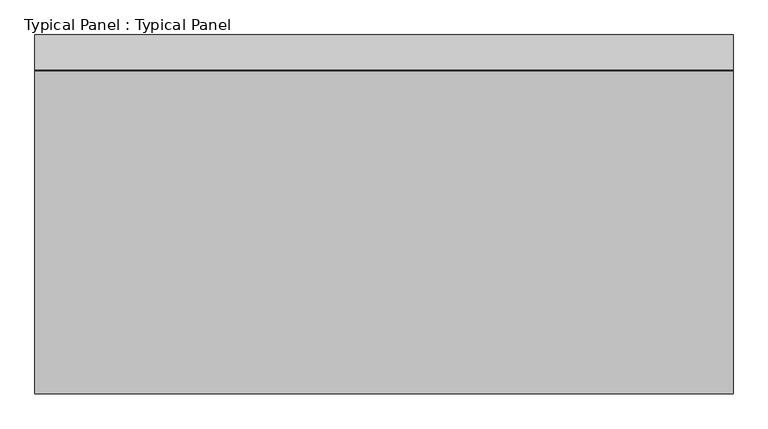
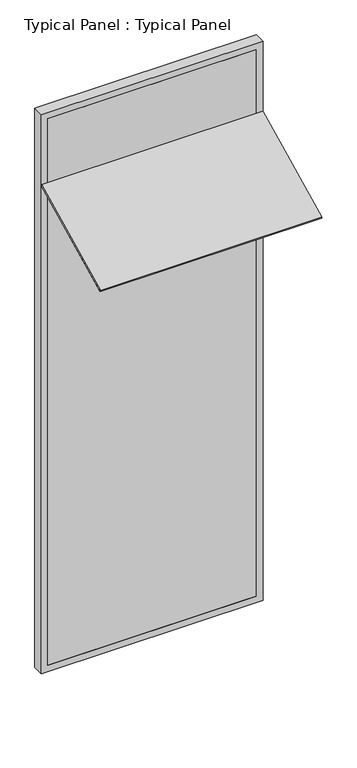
"""IFC4 building model written with IfcOpenShell, lengths in millimetres: plate geometry, Typical Panel : Typical Panel."""

import ifcopenshell
import ifcopenshell.guid

model = None  # the IFC model being written
_history = None  # IfcOwnerHistory: only IFC2X3 demands one
_inside = {}  # id of a spatial element -> (the spatial element, [elements in it])
_under = {}  # id of a project, library or spatial element -> (it, [spatial elements below it])
_declared = {}  # id of a project -> (the project, [libraries it declares])
_typed = {}  # id of a type object -> (the type object, [elements of that type])
_made_of = {}  # id of a material, layer set ... -> (it, [elements and type objects made of it])


def new_model(schema):
    """Start an empty IFC model of exactly this schema.

    Asked for "IFC4X3", IfcOpenShell would pick the latest addendum, in which some entities
    have other attributes; the version numbers below select the first issue.
    IFC2X3 requires an IfcOwnerHistory on every rooted entity: one is made here for all.
    """
    global model, _history
    if schema == "IFC4X3":
        model = ifcopenshell.file(schema_version=(4, 3, 0, 0))
    else:
        model = ifcopenshell.file(schema=schema)
    _inside.clear()
    _under.clear()
    _declared.clear()
    _typed.clear()
    _made_of.clear()
    _history = None
    if model.schema == "IFC2X3":
        org = make("IfcOrganization", Name="unknown")
        user = make(
            "IfcPersonAndOrganization",
            ThePerson=make("IfcPerson", FamilyName="unknown"),
            TheOrganization=org,
        )
        app = make(
            "IfcApplication",
            ApplicationDeveloper=org,
            Version="unknown",
            ApplicationFullName="unknown",
            ApplicationIdentifier="unknown",
        )
        _history = make(
            "IfcOwnerHistory",
            OwningUser=user,
            OwningApplication=app,
            ChangeAction="ADDED",
            CreationDate=0,
        )
    return model


def make(cls, **values):
    """One entity of the class cls with the attributes given. An attribute that is None is left unset."""
    return model.create_entity(
        cls, **{name: value for name, value in values.items() if value is not None}
    )


def rooted(cls, **values):
    """An entity with a GlobalId (a new one), such as an element, a storey or a relation."""
    return make(cls, GlobalId=ifcopenshell.guid.new(), OwnerHistory=_history, **values)


def si_unit(unit_type, name, prefix=None):
    """IfcSIUnit, for example si_unit("LENGTHUNIT", "METRE", prefix="MILLI")."""
    return make("IfcSIUnit", UnitType=unit_type, Prefix=prefix, Name=name)


def assignment(units):
    """IfcUnitAssignment: the units of a project."""
    return None if units is None else make("IfcUnitAssignment", Units=units)


def point(xyz):
    """IfcCartesianPoint."""
    return None if xyz is None else make("IfcCartesianPoint", Coordinates=xyz)


def direction(xyz):
    """IfcDirection."""
    return None if xyz is None else make("IfcDirection", DirectionRatios=xyz)


def frame(location, z_axis=None, x_axis=None):
    """IfcAxis2Placement3D, a coordinate frame: its origin and axes. An axis left out is left unset."""
    return make(
        "IfcAxis2Placement3D",
        Location=point(location),
        Axis=direction(z_axis),
        RefDirection=direction(x_axis),
    )


def origin():
    """The frame at (0, 0, 0) with its axes left unset."""
    return frame((0.0, 0.0, 0.0))


def place(relative_to, where):
    """IfcLocalPlacement: puts the frame where relative to a parent placement (None: the world)."""
    return make(
        "IfcLocalPlacement", PlacementRelTo=relative_to, RelativePlacement=where
    )


def context(
    kind, dimensions, precision=None, world=None, true_north=None, identifier=None
):
    """IfcGeometricRepresentationContext, for example the 3D "Model" context."""
    return make(
        "IfcGeometricRepresentationContext",
        ContextIdentifier=identifier,
        ContextType=kind,
        CoordinateSpaceDimension=dimensions,
        Precision=precision,
        WorldCoordinateSystem=world,
        TrueNorth=true_north,
    )


def project(units=None, contexts=None):
    """IfcProject with its units and contexts."""
    return rooted(
        "IfcProject",
        Name="project",
        RepresentationContexts=contexts,
        UnitsInContext=assignment(units),
    )


def spatial(cls, under=None, at=None, **own):
    """A site, building, storey or space (cls), placed at a placement, below another one or the project."""
    s = rooted(cls, ObjectPlacement=at, **own)
    if under is not None:
        _under.setdefault(under.id(), (under, []))[1].append(s)
    return s


def polyline(points):
    """IfcPolyline through the points."""
    return make("IfcPolyline", Points=[point(p) for p in points])


def outline(outer, holes=None, kind="AREA"):
    """IfcArbitraryClosedProfileDef: a profile drawn as a closed curve; with holes, ...WithVoids."""
    if holes is None:
        return make("IfcArbitraryClosedProfileDef", ProfileType=kind, OuterCurve=outer)
    return make(
        "IfcArbitraryProfileDefWithVoids",
        ProfileType=kind,
        OuterCurve=outer,
        InnerCurves=holes,
    )


def extrude(swept, where, along, depth):
    """IfcExtrudedAreaSolid: the profile swept, set in the frame where, extruded along a direction by depth."""
    return make(
        "IfcExtrudedAreaSolid",
        SweptArea=swept,
        Position=where,
        ExtrudedDirection=direction(along),
        Depth=depth,
    )


def shape(context_of_items, identifier, shape_type, items):
    """IfcShapeRepresentation: the items that make up one representation, for example the "Body"."""
    return make(
        "IfcShapeRepresentation",
        ContextOfItems=context_of_items,
        RepresentationIdentifier=identifier,
        RepresentationType=shape_type,
        Items=items,
    )


def source(mapping_origin, context_of_items, identifier, shape_type, items):
    """IfcRepresentationMap: a shape defined once, which mapped items show again and again."""
    return make(
        "IfcRepresentationMap",
        MappingOrigin=mapping_origin,
        MappedRepresentation=shape(context_of_items, identifier, shape_type, items),
    )


def transform(
    local_origin,
    x_axis=None,
    y_axis=None,
    z_axis=None,
    scale=None,
    scale2=None,
    scale3=None,
    uniform=True,
):
    """IfcCartesianTransformationOperator3D, or its non-uniform kind. x_axis, y_axis, z_axis: its Axis1, 2, 3."""
    if uniform:
        return make(
            "IfcCartesianTransformationOperator3D",
            Axis1=direction(x_axis),
            Axis2=direction(y_axis),
            LocalOrigin=point(local_origin),
            Scale=scale,
            Axis3=direction(z_axis),
        )
    return make(
        "IfcCartesianTransformationOperator3DnonUniform",
        Axis1=direction(x_axis),
        Axis2=direction(y_axis),
        LocalOrigin=point(local_origin),
        Scale=scale,
        Axis3=direction(z_axis),
        Scale2=scale2,
        Scale3=scale3,
    )


def mapped(mapping_source, mapping_target):
    """IfcMappedItem: shows the shape of a source again, moved by a transform."""
    return make(
        "IfcMappedItem", MappingSource=mapping_source, MappingTarget=mapping_target
    )


def made_of(thing, what):
    """Note that an element or type object is made of a material, layer set ...; save() writes the relation."""
    if what is not None:
        _made_of.setdefault(what.id(), (what, []))[1].append(thing)
    return thing


def element(
    cls,
    number,
    at=None,
    inside=None,
    cuts=None,
    type_object=None,
    material=None,
    context=None,
    identifier="Body",
    shape_type=None,
    held_by="IfcProductDefinitionShape",
    body=None,
    shapes=None,
    **own,
):
    """One element of the class cls, such as IfcWall. Its Tag is "e" and its number.

    at: its placement. inside: the storey or other place that contains it. cuts: it is an
    opening in that element (IfcRelVoidsElement). A single representation is given by context,
    identifier, shape_type and body (its items); several are given by shapes. held_by: the class
    of the entity that holds the representations. save() writes the other relations.
    """
    e = rooted(cls, Tag="e%d" % number, ObjectPlacement=at, **own)
    if body is not None:
        shapes = [shape(context, identifier, shape_type, body)]
    if shapes is not None:
        e.Representation = make(held_by, Representations=shapes)
    if inside is not None:
        _inside.setdefault(inside.id(), (inside, []))[1].append(e)
    if cuts is not None:
        rooted(
            "IfcRelVoidsElement", RelatingBuildingElement=cuts, RelatedOpeningElement=e
        )
    if type_object is not None:
        _typed.setdefault(type_object.id(), (type_object, []))[1].append(e)
    return made_of(e, material)


def aggregate(whole, parts):
    """IfcRelAggregates: a whole, such as a stair, and the parts it consists of."""
    return rooted("IfcRelAggregates", RelatingObject=whole, RelatedObjects=parts)


def save(model, path):
    """Write the relations noted so far, then the file.

    IfcRelAggregates (storeys below a building ...), IfcRelContainedInSpatialStructure (elements
    in a storey), IfcRelDefinesByType, IfcRelAssociatesMaterial and IfcRelDeclares: one each for
    every whole, place, type object, material and project.
    """
    for whole, parts in _under.values():
        aggregate(whole, parts)
    for where, things in _inside.values():
        rooted(
            "IfcRelContainedInSpatialStructure",
            RelatedElements=things,
            RelatingStructure=where,
        )
    for kind, things in _typed.values():
        rooted("IfcRelDefinesByType", RelatedObjects=things, RelatingType=kind)
    for what, things in _made_of.values():
        rooted("IfcRelAssociatesMaterial", RelatedObjects=things, RelatingMaterial=what)
    for by, libraries in _declared.values():
        rooted("IfcRelDeclares", RelatingContext=by, RelatedDefinitions=libraries)
    model.write(path)


def typical_panel_typical_panel_c4bb10ae(model_context):
    return source(origin(), model_context, "Body", "SweptSolid", [
        extrude(outline(polyline([(0.0, -770.0), (0.0, 0.0), (1500.0, 0.0), (1500.0, -770.0), (0.0, -770.0)])), frame((750.0, -692.6877042, 3153.4662765), z_axis=(0.0, -0.43837114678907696, 0.8987940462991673), x_axis=(-1.0, 0.0, 0.0)), (0.0, 0.0, 1.0), 10.0),
        extrude(outline(polyline([(0.0, -750.0), (0.0, 750.0), (4000.0, 750.0), (4000.0, -750.0), (0.0, -750.0)]), holes=[polyline([(45.0, 705.0), (45.0, -705.0), (3955.0, -705.0), (3955.0, 705.0), (45.0, 705.0)])]), frame((0.0, -1.5797986, 0.0), z_axis=(0.0, 1.0, 0.0), x_axis=(0.0, 0.0, 1.0)), (0.0, 0.0, 1.0), 75.0),
        extrude(outline(polyline([(705.0, -1.5797986), (-705.0, -1.5797986), (-705.0, 13.4202014), (705.0, 13.4202014), (705.0, -1.5797986)])), frame((0.0, 0.0, 45.0), z_axis=(0.0, 0.0, 1.0), x_axis=(1.0, 0.0, 0.0)), (0.0, 0.0, 1.0), 3910.0),
    ])


if __name__ == "__main__":
    model = new_model("IFC4")
    model_context = context("Model", 3, world=origin())
    ifc_project = project(units=[si_unit("LENGTHUNIT", "METRE", prefix="MILLI")], contexts=[model_context])
    site = spatial("IfcSite", under=ifc_project)
    building = spatial("IfcBuilding", under=site)
    placement = place(None, origin())
    typical_panel_typical_panel_shape = typical_panel_typical_panel_c4bb10ae(model_context)
    element("IfcPlate", 1, ObjectType="Typical Panel : Typical Panel", at=placement, inside=building, context=model_context, shape_type="MappedRepresentation", body=[
        mapped(typical_panel_typical_panel_shape, transform((0.0, 0.0, 0.0), x_axis=(1.0, 0.0, 0.0), y_axis=(0.0, 1.0, 0.0), z_axis=(0.0, 0.0, 1.0))),
    ])
    save(model, "model.ifc")
